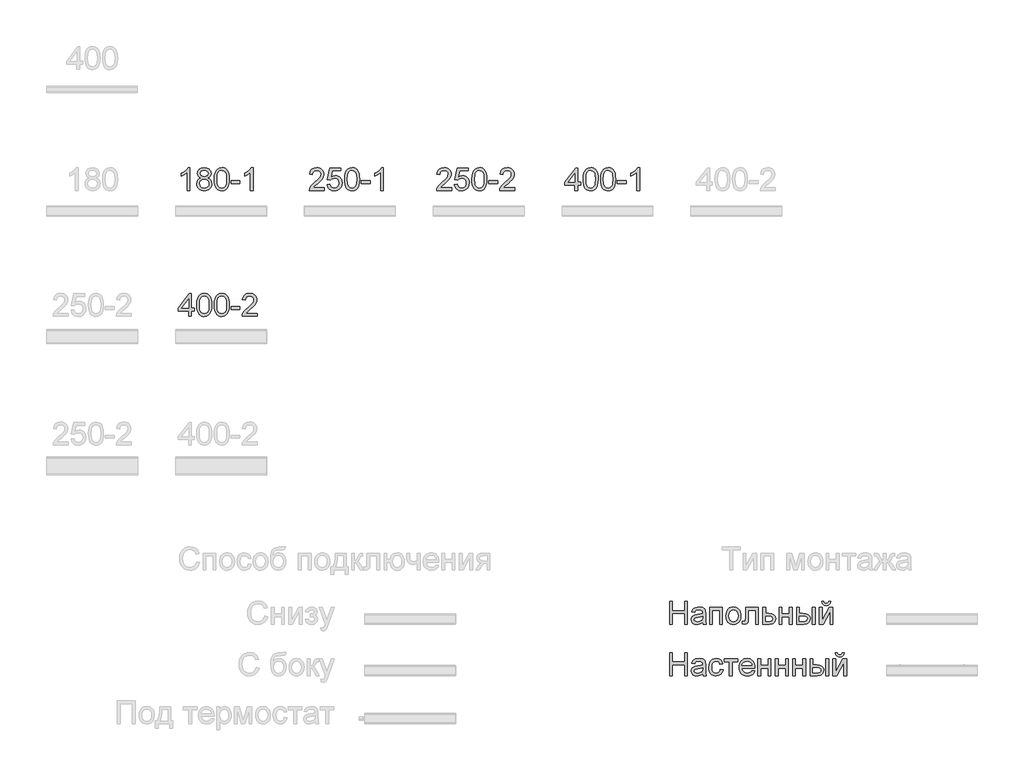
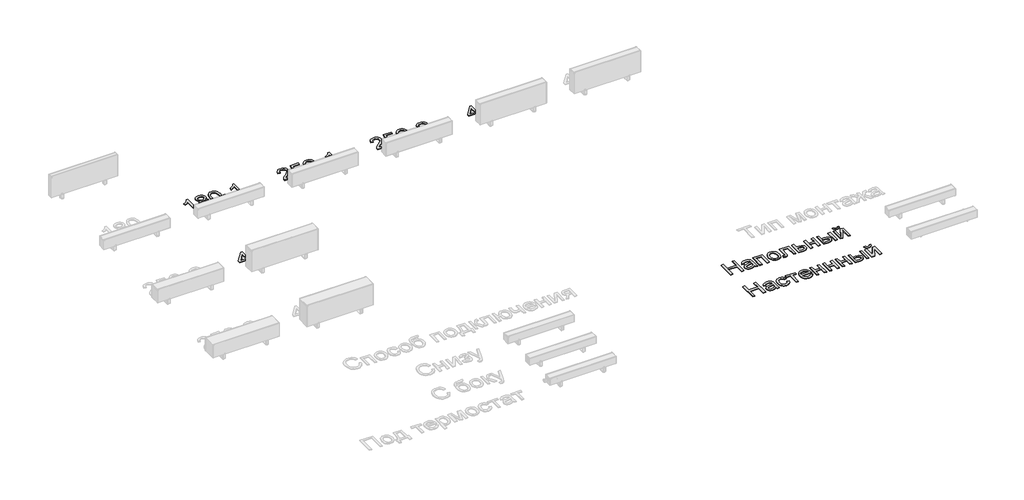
# One storey, part 6 of 7: 7 proxies.
"""IFC4 building model written with IfcOpenShell, lengths in millimetres."""

from ifc_helpers import new_model, si_unit, origin, origin_with_axes, place, context, project, spatial, polyline, outline, extrude, element, save

model = new_model("IFC4")

# Units and contexts
model_context = context("Model", 3, world=origin())
ifc_project = project(units=[si_unit("LENGTHUNIT", "METRE", prefix="MILLI")], contexts=[model_context])

# Site, building, storey
site = spatial("IfcSite", under=ifc_project)
building = spatial("IfcBuilding", under=site)
storey = spatial("IfcBuildingStorey", under=building, Name="Уровень 1", Elevation=0.0)

# Proxies
placement = place(None, origin())
element("IfcBuildingElementProxy", 1, Name="Текст модели 1", ObjectType="Текст модели 1", at=placement, inside=storey, context=model_context, shape_type="SweptSolid", body=[
    extrude(outline(polyline([(8112.3086397, -1140.7706341), (8074.6375233, -1140.7706341), (8074.6375233, -905.9147684), (8038.9529698, -931.3354142), (7999.2952907, -950.3549134), (7999.2952907, -914.7439363), (8028.8822002, -898.649099), (8054.5143782, -879.5008411), (8074.7202968, -859.1385727), (8088.028428, -839.4017036), (8112.3086397, -839.4017036), (8112.3086397, -1140.7706341)])), origin_with_axes(), (0.0, 0.0, 1.0), 10.0),
    extrude(outline(polyline([(8256.6655346, -974.7822779), (8236.4964042, -964.849464), (8222.3421444, -951.384983), (8213.9820261, -934.6647463), (8211.19532, -914.9646655), (8212.7128332, -899.6009936), (8217.2653729, -885.5157117), (8224.852939, -872.7088198), (8235.4755316, -861.1803178), (8248.6227144, -851.6521741), (8263.7840512, -844.8463572), (8300.1491864, -839.4017036), (8336.7350508, -844.9751159), (8352.0619344, -851.9418812), (8365.4114523, -861.6953525), (8376.227183, -873.4491823), (8383.9527049, -886.4170226), (8388.588018, -900.5988735), (8390.1331224, -915.994735), (8387.3832045, -935.0602194), (8379.1334508, -951.4953476), (8365.2918907, -964.8770551), (8345.7665538, -974.7822779), (8368.9523165, -986.7292457), (8385.8289031, -1004.3232021), (8396.1204019, -1026.7180185), (8399.5509015, -1053.0675664), (8397.8494473, -1071.8571393), (8392.7450846, -1089.0832138), (8384.2378134, -1104.7457897), (8372.3276338, -1118.8448672), (8357.6399452, -1130.4975294), (8340.8001469, -1138.8208595), (8321.8082389, -1143.8148576), (8300.6642212, -1145.4795236), (8279.5202035, -1143.8079598), (8260.5282955, -1138.7932684), (8243.6884972, -1130.4354493), (8229.0008085, -1118.7345026), (8217.0906289, -1104.5365568), (8208.5833578, -1088.6877406), (8203.4789951, -1071.188054), (8201.7775409, -1052.0374969), (8205.3459962, -1024.6670764), (8216.0513623, -1002.1526983), (8233.3418161, -985.2669147), (8256.6655346, -974.7822779)]), holes=[polyline([(8239.4486572, -1050.7131217), (8245.7394393, -1079.0768235), (8254.4490455, -1091.2445205), (8267.9963, -1100.3036146), (8284.219896, -1105.9322091), (8300.9585268, -1107.8084073), (8326.5999018, -1103.8628729), (8345.8401302, -1092.0262697), (8357.8698714, -1074.1012195), (8361.8797852, -1051.8903441), (8357.7411127, -1029.3023896), (8345.3250954, -1010.9818662), (8325.6434087, -998.8417604), (8299.707728, -994.7950584), (8274.4250379, -998.7865781), (8255.3779476, -1010.761137), (8243.4309798, -1028.7321725), (8239.4486572, -1050.7131217)]), polyline([(8248.8664363, -916.0683114), (8252.2049654, -932.5126366), (8262.2205527, -945.6460238), (8278.6188926, -954.2544625), (8301.1056796, -957.1239421), (8323.0682347, -954.2728566), (8339.2182543, -945.7196002), (8349.1510682, -933.0276714), (8352.4620061, -917.7605686), (8349.0407036, -901.9140517), (8338.7767959, -888.8082556), (8322.4060471, -880.0066789), (8300.6642212, -877.0728199), (8278.7844395, -879.9422995), (8262.4412819, -888.5507382), (8252.2601477, -901.1690906), (8248.8664363, -916.0683114)])]), origin_with_axes(), (0.0, 0.0, 1.0), 10.0),
    extrude(outline(polyline([(8432.5131283, -992.51419), (8435.2814403, -944.2756634), (8443.5863763, -905.8044038), (8457.3451629, -876.5117999), (8476.4750267, -855.8092406), (8501.1139233, -843.5035879), (8531.3998086, -839.4017036), (8554.6131625, -841.8297248), (8575.3984952, -849.1137883), (8592.7809195, -860.9687856), (8605.785548, -877.1096081), (8615.6079973, -897.3983002), (8623.4438838, -921.696906), (8628.5758376, -952.5530083), (8630.2864889, -992.51419), (8627.545768, -1040.4768052), (8619.3236054, -1078.8560943), (8605.6475922, -1108.1762893), (8586.5453196, -1128.961622), (8561.8512407, -1141.3500482), (8531.3998086, -1145.4795236), (8510.651264, -1143.6860989), (8492.2571643, -1138.3058247), (8476.2175093, -1129.3387011), (8462.5322991, -1116.784728), (8449.3989118, -1094.0910074), (8440.017921, -1065.8146776), (8434.3893264, -1031.9557384), (8432.5131283, -992.51419)]), holes=[polyline([(8470.1842446, -992.4406136), (8474.5988285, -1051.697206), (8480.1170584, -1071.9652047), (8487.8425803, -1085.993005), (8507.5610553, -1102.3545567), (8531.3998086, -1107.8084073), (8555.2385618, -1102.3361626), (8574.9570368, -1085.9194286), (8582.6825587, -1071.8686357), (8588.2007886, -1051.6052355), (8592.6153726, -992.4406136), (8588.3479414, -934.5175935), (8583.0136525, -914.3162734), (8575.545648, -899.95508), (8555.8639612, -882.793385), (8530.9583502, -877.0728199), (8507.3771143, -882.1128033), (8488.4311915, -897.2327533), (8480.4481522, -912.8677381), (8474.7459813, -933.9473764), (8470.1842446, -992.4406136)])]), origin_with_axes(), (0.0, 0.0, 1.0), 10.0),
    extrude(outline(polyline([(8653.8309366, -1051.3017329), (8653.8309366, -1013.6306166), (8771.553175, -1013.6306166), (8771.553175, -1051.3017329), (8653.8309366, -1051.3017329)])), origin_with_axes(), (0.0, 0.0, 1.0), 10.0),
    extrude(outline(polyline([(8945.7820879, -1140.7706341), (8908.1109716, -1140.7706341), (8908.1109716, -905.9147684), (8872.4264181, -931.3354142), (8832.768739, -950.3549134), (8832.768739, -914.7439363), (8862.3556485, -898.649099), (8887.9878265, -879.5008411), (8908.1937451, -859.1385727), (8921.5018762, -839.4017036), (8945.7820879, -839.4017036), (8945.7820879, -1140.7706341)])), origin_with_axes(), (0.0, 0.0, 1.0), 10.0),
])
element("IfcBuildingElementProxy", 2, Name="Текст модели 1", ObjectType="Текст модели 1", at=placement, inside=storey, context=model_context, shape_type="SweptSolid", body=[
    extrude(outline(polyline([(9884.1064246, -1103.0995178), (9884.1064246, -1140.7706341), (9686.333064, -1140.7706341), (9690.3797659, -1114.7981652), (9699.6687863, -1094.5002761), (9713.262026, -1074.8093924), (9732.9253187, -1054.1988036), (9760.4244978, -1031.1417995), (9801.0754583, -995.0341817), (9825.4660345, -968.3811312), (9837.6613227, -946.7496698), (9841.7264187, -925.7068197), (9837.8912489, -906.8436704), (9826.3857395, -891.1627004), (9808.6998126, -880.5952901), (9786.3233903, -877.0728199), (9762.8249278, -880.5125166), (9744.5687838, -890.8316066), (9732.7873629, -907.2207495), (9728.7130698, -928.8706049), (9691.0419535, -924.1617153), (9700.174624, -887.7230037), (9708.7209826, -873.1870664), (9719.9206901, -861.1067414), (9733.5162291, -851.6107874), (9749.2500822, -844.8279631), (9787.1327306, -839.4017036), (9807.3225544, -840.9100198), (9825.2912906, -845.4349684), (9841.0389393, -852.9765493), (9854.5655004, -863.5347625), (9865.4295155, -876.3278589), (9873.1895264, -890.5740892), (9877.8455329, -906.2734533), (9879.397535, -923.4259513), (9877.723672, -941.4429721), (9872.7020827, -959.1472931), (9863.7901414, -977.1551167), (9850.445222, -996.0826454), (9829.1724456, -1018.6797969), (9796.4769333, -1047.6964893), (9753.1404343, -1083.9328658), (9736.1442861, -1103.0995178), (9884.1064246, -1103.0995178)])), origin_with_axes(), (0.0, 0.0, 1.0), 10.0),
    extrude(outline(polyline([(9921.7775409, -1060.7195119), (9959.4486572, -1056.0106224), (9966.3648387, -1078.6261681), (9978.4313681, -1094.8221729), (9995.5930632, -1104.5618487), (10017.7947416, -1107.8084073), (10044.7972801, -1103.2926558), (10065.0307898, -1089.7454014), (10077.6675363, -1068.7301424), (10081.8797852, -1041.8103774), (10077.9342508, -1016.4633079), (10066.0976476, -997.0759268), (10046.2780051, -984.770274), (10018.3833528, -980.6683898), (10000.1088147, -982.3054647), (9985.3107615, -987.2166893), (9964.1575467, -1004.2128375), (9926.4864304, -999.5039479), (9959.4486572, -844.1105932), (10105.4242329, -844.1105932), (10105.4242329, -881.7817095), (9989.9092864, -881.7817095), (9973.796055, -964.7758876), (10000.7066229, -948.441927), (10028.9047779, -942.9972735), (10047.2505931, -944.6849321), (10064.1018878, -949.7479081), (10079.4586618, -958.1862014), (10093.3209152, -969.9998119), (10104.7965342, -984.4667714), (10112.9934049, -1000.8651113), (10117.9115273, -1019.1948317), (10119.5509015, -1039.4559326), (10113.6463955, -1077.1270489), (10106.2657629, -1093.920862), (10095.9328774, -1109.3535117), (10080.2794985, -1125.1586419), (10062.0141574, -1136.4480206), (10041.1368542, -1143.2216479), (10017.6475888, -1145.4795236), (9980.6478572, -1139.6761852), (9964.9691864, -1132.4220121), (9951.1713123, -1122.2661697), (9939.6910948, -1109.7144959), (9930.9653937, -1095.2728283), (9921.7775409, -1060.7195119)])), origin_with_axes(), (0.0, 0.0, 1.0), 10.0),
    extrude(outline(polyline([(10152.5131283, -992.51419), (10155.2814403, -944.2756634), (10163.5863763, -905.8044038), (10177.3451629, -876.5117999), (10196.4750267, -855.8092406), (10221.1139233, -843.5035879), (10251.3998086, -839.4017036), (10274.6131625, -841.8297248), (10295.3984952, -849.1137883), (10312.7809195, -860.9687856), (10325.785548, -877.1096081), (10335.6079973, -897.3983002), (10343.4438838, -921.696906), (10348.5758376, -952.5530083), (10350.2864889, -992.51419), (10347.545768, -1040.4768052), (10339.3236054, -1078.8560943), (10325.6475922, -1108.1762893), (10306.5453196, -1128.961622), (10281.8512407, -1141.3500482), (10251.3998086, -1145.4795236), (10230.651264, -1143.6860989), (10212.2571643, -1138.3058247), (10196.2175093, -1129.3387011), (10182.5322991, -1116.784728), (10169.3989118, -1094.0910074), (10160.017921, -1065.8146776), (10154.3893264, -1031.9557384), (10152.5131283, -992.51419)]), holes=[polyline([(10190.1842446, -992.4406136), (10194.5988285, -1051.697206), (10200.1170584, -1071.9652047), (10207.8425803, -1085.993005), (10227.5610553, -1102.3545567), (10251.3998086, -1107.8084073), (10275.2385618, -1102.3361626), (10294.9570368, -1085.9194286), (10302.6825587, -1071.8686357), (10308.2007886, -1051.6052355), (10312.6153726, -992.4406136), (10308.3479414, -934.5175935), (10303.0136525, -914.3162734), (10295.545648, -899.95508), (10275.8639612, -882.793385), (10250.9583502, -877.0728199), (10227.3771143, -882.1128033), (10208.4311915, -897.2327533), (10200.4481522, -912.8677381), (10194.7459813, -933.9473764), (10190.1842446, -992.4406136)])]), origin_with_axes(), (0.0, 0.0, 1.0), 10.0),
    extrude(outline(polyline([(10373.8309366, -1051.3017329), (10373.8309366, -1013.6306166), (10491.553175, -1013.6306166), (10491.553175, -1051.3017329), (10373.8309366, -1051.3017329)])), origin_with_axes(), (0.0, 0.0, 1.0), 10.0),
    extrude(outline(polyline([(10665.7820879, -1140.7706341), (10628.1109716, -1140.7706341), (10628.1109716, -905.9147684), (10592.4264181, -931.3354142), (10552.768739, -950.3549134), (10552.768739, -914.7439363), (10582.3556485, -898.649099), (10607.9878265, -879.5008411), (10628.1937451, -859.1385727), (10641.5018762, -839.4017036), (10665.7820879, -839.4017036), (10665.7820879, -1140.7706341)])), origin_with_axes(), (0.0, 0.0, 1.0), 10.0),
])
element("IfcBuildingElementProxy", 3, Name="Текст модели 1", ObjectType="Текст модели 1", at=placement, inside=storey, context=model_context, shape_type="SweptSolid", body=[
    extrude(outline(polyline([(11564.1064246, -1103.0995178), (11564.1064246, -1140.7706341), (11366.333064, -1140.7706341), (11370.3797659, -1114.7981652), (11379.6687863, -1094.5002761), (11393.262026, -1074.8093924), (11412.9253187, -1054.1988036), (11440.4244978, -1031.1417995), (11481.0754583, -995.0341817), (11505.4660345, -968.3811312), (11517.6613227, -946.7496698), (11521.7264187, -925.7068197), (11517.8912489, -906.8436704), (11506.3857395, -891.1627004), (11488.6998126, -880.5952901), (11466.3233903, -877.0728199), (11442.8249278, -880.5125166), (11424.5687838, -890.8316066), (11412.7873629, -907.2207495), (11408.7130698, -928.8706049), (11371.0419535, -924.1617153), (11380.174624, -887.7230037), (11388.7209826, -873.1870664), (11399.9206901, -861.1067414), (11413.5162291, -851.6107874), (11429.2500822, -844.8279631), (11467.1327306, -839.4017036), (11487.3225544, -840.9100198), (11505.2912906, -845.4349684), (11521.0389393, -852.9765493), (11534.5655004, -863.5347625), (11545.4295155, -876.3278589), (11553.1895264, -890.5740892), (11557.8455329, -906.2734533), (11559.397535, -923.4259513), (11557.723672, -941.4429721), (11552.7020827, -959.1472931), (11543.7901414, -977.1551167), (11530.445222, -996.0826454), (11509.1724456, -1018.6797969), (11476.4769333, -1047.6964893), (11433.1404343, -1083.9328658), (11416.1442861, -1103.0995178), (11564.1064246, -1103.0995178)])), origin_with_axes(), (0.0, 0.0, 1.0), 10.0),
    extrude(outline(polyline([(11601.7775409, -1060.7195119), (11639.4486572, -1056.0106224), (11646.3648387, -1078.6261681), (11658.4313681, -1094.8221729), (11675.5930632, -1104.5618487), (11697.7947416, -1107.8084073), (11724.7972801, -1103.2926558), (11745.0307898, -1089.7454014), (11757.6675363, -1068.7301424), (11761.8797852, -1041.8103774), (11757.9342508, -1016.4633079), (11746.0976476, -997.0759268), (11726.2780051, -984.770274), (11698.3833528, -980.6683898), (11680.1088147, -982.3054647), (11665.3107615, -987.2166893), (11644.1575467, -1004.2128375), (11606.4864304, -999.5039479), (11639.4486572, -844.1105932), (11785.4242329, -844.1105932), (11785.4242329, -881.7817095), (11669.9092864, -881.7817095), (11653.796055, -964.7758876), (11680.7066229, -948.441927), (11708.9047779, -942.9972735), (11727.2505931, -944.6849321), (11744.1018878, -949.7479081), (11759.4586618, -958.1862014), (11773.3209152, -969.9998119), (11784.7965342, -984.4667714), (11792.9934049, -1000.8651113), (11797.9115273, -1019.1948317), (11799.5509015, -1039.4559326), (11793.6463955, -1077.1270489), (11786.2657629, -1093.920862), (11775.9328774, -1109.3535117), (11760.2794985, -1125.1586419), (11742.0141574, -1136.4480206), (11721.1368542, -1143.2216479), (11697.6475888, -1145.4795236), (11660.6478572, -1139.6761852), (11644.9691864, -1132.4220121), (11631.1713123, -1122.2661697), (11619.6910948, -1109.7144959), (11610.9653937, -1095.2728283), (11601.7775409, -1060.7195119)])), origin_with_axes(), (0.0, 0.0, 1.0), 10.0),
    extrude(outline(polyline([(11832.5131283, -992.51419), (11835.2814403, -944.2756634), (11843.5863763, -905.8044038), (11857.3451629, -876.5117999), (11876.4750267, -855.8092406), (11901.1139233, -843.5035879), (11931.3998086, -839.4017036), (11954.6131625, -841.8297248), (11975.3984952, -849.1137883), (11992.7809195, -860.9687856), (12005.785548, -877.1096081), (12015.6079973, -897.3983002), (12023.4438838, -921.696906), (12028.5758376, -952.5530083), (12030.2864889, -992.51419), (12027.545768, -1040.4768052), (12019.3236054, -1078.8560943), (12005.6475922, -1108.1762893), (11986.5453196, -1128.961622), (11961.8512407, -1141.3500482), (11931.3998086, -1145.4795236), (11910.651264, -1143.6860989), (11892.2571643, -1138.3058247), (11876.2175093, -1129.3387011), (11862.5322991, -1116.784728), (11849.3989118, -1094.0910074), (11840.017921, -1065.8146776), (11834.3893264, -1031.9557384), (11832.5131283, -992.51419)]), holes=[polyline([(11870.1842446, -992.4406136), (11874.5988285, -1051.697206), (11880.1170584, -1071.9652047), (11887.8425803, -1085.993005), (11907.5610553, -1102.3545567), (11931.3998086, -1107.8084073), (11955.2385618, -1102.3361626), (11974.9570368, -1085.9194286), (11982.6825587, -1071.8686357), (11988.2007886, -1051.6052355), (11992.6153726, -992.4406136), (11988.3479414, -934.5175935), (11983.0136525, -914.3162734), (11975.545648, -899.95508), (11955.8639612, -882.793385), (11930.9583502, -877.0728199), (11907.3771143, -882.1128033), (11888.4311915, -897.2327533), (11880.4481522, -912.8677381), (11874.7459813, -933.9473764), (11870.1842446, -992.4406136)])]), origin_with_axes(), (0.0, 0.0, 1.0), 10.0),
    extrude(outline(polyline([(12053.8309366, -1051.3017329), (12053.8309366, -1013.6306166), (12171.553175, -1013.6306166), (12171.553175, -1051.3017329), (12053.8309366, -1051.3017329)])), origin_with_axes(), (0.0, 0.0, 1.0), 10.0),
    extrude(outline(polyline([(12397.5798728, -1103.0995178), (12397.5798728, -1140.7706341), (12199.8065122, -1140.7706341), (12203.8532142, -1114.7981652), (12213.1422346, -1094.5002761), (12226.7354743, -1074.8093924), (12246.3987669, -1054.1988036), (12273.8979461, -1031.1417995), (12314.5489065, -995.0341817), (12338.9394828, -968.3811312), (12351.134771, -946.7496698), (12355.199867, -925.7068197), (12351.3646972, -906.8436704), (12339.8591878, -891.1627004), (12322.1732609, -880.5952901), (12299.7968385, -877.0728199), (12276.2983761, -880.5125166), (12258.0422321, -890.8316066), (12246.2608112, -907.2207495), (12242.1865181, -928.8706049), (12204.5154018, -924.1617153), (12213.6480723, -887.7230037), (12222.1944309, -873.1870664), (12233.3941384, -861.1067414), (12246.9896774, -851.6107874), (12262.7235305, -844.8279631), (12300.6061789, -839.4017036), (12320.7960027, -840.9100198), (12338.7647389, -845.4349684), (12354.5123875, -852.9765493), (12368.0389486, -863.5347625), (12378.9029638, -876.3278589), (12386.6629746, -890.5740892), (12391.3189811, -906.2734533), (12392.8709833, -923.4259513), (12391.1971202, -941.4429721), (12386.175531, -959.1472931), (12377.2635897, -977.1551167), (12363.9186703, -996.0826454), (12342.6458939, -1018.6797969), (12309.9503816, -1047.6964893), (12266.6138826, -1083.9328658), (12249.6177344, -1103.0995178), (12397.5798728, -1103.0995178)])), origin_with_axes(), (0.0, 0.0, 1.0), 10.0),
])
element("IfcBuildingElementProxy", 4, Name="Текст модели 1", ObjectType="Текст модели 1", at=placement, inside=storey, context=model_context, shape_type="SweptSolid", body=[
    extrude(outline(polyline([(13193.4730815, -1140.7706341), (13193.4730815, -1070.137291), (13056.9152849, -1070.137291), (13056.9152849, -1032.4661747), (13202.8908606, -844.1105932), (13231.1441978, -844.1105932), (13231.1441978, -1032.4661747), (13268.8153141, -1032.4661747), (13268.8153141, -1070.137291), (13231.1441978, -1070.137291), (13231.1441978, -1140.7706341), (13193.4730815, -1140.7706341)]), holes=[polyline([(13193.4730815, -1032.4661747), (13193.4730815, -916.0683114), (13103.2684163, -1032.4661747), (13193.4730815, -1032.4661747)])]), origin_with_axes(), (0.0, 0.0, 1.0), 10.0),
    extrude(outline(polyline([(13301.7775409, -992.51419), (13304.5458529, -944.2756634), (13312.8507889, -905.8044038), (13326.6095756, -876.5117999), (13345.7394393, -855.8092406), (13370.3783359, -843.5035879), (13400.6642212, -839.4017036), (13423.8775751, -841.8297248), (13444.6629078, -849.1137883), (13462.0453321, -860.9687856), (13475.0499606, -877.1096081), (13484.8724099, -897.3983002), (13492.7082964, -921.696906), (13497.8402502, -952.5530083), (13499.5509015, -992.51419), (13496.8101806, -1040.4768052), (13488.588018, -1078.8560943), (13474.9120049, -1108.1762893), (13455.8097323, -1128.961622), (13431.1156533, -1141.3500482), (13400.6642212, -1145.4795236), (13379.9156767, -1143.6860989), (13361.5215769, -1138.3058247), (13345.4819219, -1129.3387011), (13331.7967117, -1116.784728), (13318.6633245, -1094.0910074), (13309.2823336, -1065.8146776), (13303.6537391, -1031.9557384), (13301.7775409, -992.51419)]), holes=[polyline([(13339.4486572, -992.4406136), (13343.8632411, -1051.697206), (13349.3814711, -1071.9652047), (13357.106993, -1085.993005), (13376.8254679, -1102.3545567), (13400.6642212, -1107.8084073), (13424.5029745, -1102.3361626), (13444.2214494, -1085.9194286), (13451.9469713, -1071.8686357), (13457.4652012, -1051.6052355), (13461.8797852, -992.4406136), (13457.612354, -934.5175935), (13452.2780651, -914.3162734), (13444.8100606, -899.95508), (13425.1283739, -882.793385), (13400.2227628, -877.0728199), (13376.6415269, -882.1128033), (13357.6956041, -897.2327533), (13349.7125649, -912.8677381), (13344.0103939, -933.9473764), (13339.4486572, -992.4406136)])]), origin_with_axes(), (0.0, 0.0, 1.0), 10.0),
    extrude(outline(polyline([(13532.5131283, -992.51419), (13535.2814403, -944.2756634), (13543.5863763, -905.8044038), (13557.3451629, -876.5117999), (13576.4750267, -855.8092406), (13601.1139233, -843.5035879), (13631.3998086, -839.4017036), (13654.6131625, -841.8297248), (13675.3984952, -849.1137883), (13692.7809195, -860.9687856), (13705.785548, -877.1096081), (13715.6079973, -897.3983002), (13723.4438838, -921.696906), (13728.5758376, -952.5530083), (13730.2864889, -992.51419), (13727.545768, -1040.4768052), (13719.3236054, -1078.8560943), (13705.6475922, -1108.1762893), (13686.5453196, -1128.961622), (13661.8512407, -1141.3500482), (13631.3998086, -1145.4795236), (13610.651264, -1143.6860989), (13592.2571643, -1138.3058247), (13576.2175093, -1129.3387011), (13562.5322991, -1116.784728), (13549.3989118, -1094.0910074), (13540.017921, -1065.8146776), (13534.3893264, -1031.9557384), (13532.5131283, -992.51419)]), holes=[polyline([(13570.1842446, -992.4406136), (13574.5988285, -1051.697206), (13580.1170584, -1071.9652047), (13587.8425803, -1085.993005), (13607.5610553, -1102.3545567), (13631.3998086, -1107.8084073), (13655.2385618, -1102.3361626), (13674.9570368, -1085.9194286), (13682.6825587, -1071.8686357), (13688.2007886, -1051.6052355), (13692.6153726, -992.4406136), (13688.3479414, -934.5175935), (13683.0136525, -914.3162734), (13675.545648, -899.95508), (13655.8639612, -882.793385), (13630.9583502, -877.0728199), (13607.3771143, -882.1128033), (13588.4311915, -897.2327533), (13580.4481522, -912.8677381), (13574.7459813, -933.9473764), (13570.1842446, -992.4406136)])]), origin_with_axes(), (0.0, 0.0, 1.0), 10.0),
    extrude(outline(polyline([(13753.8309366, -1051.3017329), (13753.8309366, -1013.6306166), (13871.553175, -1013.6306166), (13871.553175, -1051.3017329), (13753.8309366, -1051.3017329)])), origin_with_axes(), (0.0, 0.0, 1.0), 10.0),
    extrude(outline(polyline([(14045.7820879, -1140.7706341), (14008.1109716, -1140.7706341), (14008.1109716, -905.9147684), (13972.4264181, -931.3354142), (13932.768739, -950.3549134), (13932.768739, -914.7439363), (13962.3556485, -898.649099), (13987.9878265, -879.5008411), (14008.1937451, -859.1385727), (14021.5018762, -839.4017036), (14045.7820879, -839.4017036), (14045.7820879, -1140.7706341)])), origin_with_axes(), (0.0, 0.0, 1.0), 10.0),
])
element("IfcBuildingElementProxy", 5, Name="Текст модели 1", ObjectType="Текст модели 1", at=placement, inside=storey, context=model_context, shape_type="SweptSolid", body=[
    extrude(outline(polyline([(8093.4730815, -2800.7706341), (8093.4730815, -2730.137291), (7956.9152849, -2730.137291), (7956.9152849, -2692.4661747), (8102.8908606, -2504.1105932), (8131.1441978, -2504.1105932), (8131.1441978, -2692.4661747), (8168.8153141, -2692.4661747), (8168.8153141, -2730.137291), (8131.1441978, -2730.137291), (8131.1441978, -2800.7706341), (8093.4730815, -2800.7706341)]), holes=[polyline([(8093.4730815, -2692.4661747), (8093.4730815, -2576.0683114), (8003.2684163, -2692.4661747), (8093.4730815, -2692.4661747)])]), origin_with_axes(), (0.0, 0.0, 1.0), 10.0),
    extrude(outline(polyline([(8201.7775409, -2652.51419), (8204.5458529, -2604.2756634), (8212.8507889, -2565.8044038), (8226.6095756, -2536.5117999), (8245.7394393, -2515.8092406), (8270.3783359, -2503.5035879), (8300.6642212, -2499.4017036), (8323.8775751, -2501.8297248), (8344.6629078, -2509.1137883), (8362.0453321, -2520.9687856), (8375.0499606, -2537.1096081), (8384.8724099, -2557.3983002), (8392.7082964, -2581.696906), (8397.8402502, -2612.5530083), (8399.5509015, -2652.51419), (8396.8101806, -2700.4768052), (8388.588018, -2738.8560943), (8374.9120049, -2768.1762893), (8355.8097323, -2788.961622), (8331.1156533, -2801.3500482), (8300.6642212, -2805.4795236), (8279.9156767, -2803.6860989), (8261.5215769, -2798.3058247), (8245.4819219, -2789.3387011), (8231.7967117, -2776.784728), (8218.6633245, -2754.0910074), (8209.2823336, -2725.8146776), (8203.6537391, -2691.9557384), (8201.7775409, -2652.51419)]), holes=[polyline([(8239.4486572, -2652.4406136), (8243.8632411, -2711.697206), (8249.3814711, -2731.9652047), (8257.106993, -2745.993005), (8276.8254679, -2762.3545567), (8300.6642212, -2767.8084073), (8324.5029745, -2762.3361626), (8344.2214494, -2745.9194286), (8351.9469713, -2731.8686357), (8357.4652012, -2711.6052355), (8361.8797852, -2652.4406136), (8357.612354, -2594.5175935), (8352.2780651, -2574.3162734), (8344.8100606, -2559.95508), (8325.1283739, -2542.793385), (8300.2227628, -2537.0728199), (8276.6415269, -2542.1128033), (8257.6956041, -2557.2327533), (8249.7125649, -2572.8677381), (8244.0103939, -2593.9473764), (8239.4486572, -2652.4406136)])]), origin_with_axes(), (0.0, 0.0, 1.0), 10.0),
    extrude(outline(polyline([(8432.5131283, -2652.51419), (8435.2814403, -2604.2756634), (8443.5863763, -2565.8044038), (8457.3451629, -2536.5117999), (8476.4750267, -2515.8092406), (8501.1139233, -2503.5035879), (8531.3998086, -2499.4017036), (8554.6131625, -2501.8297248), (8575.3984952, -2509.1137883), (8592.7809195, -2520.9687856), (8605.785548, -2537.1096081), (8615.6079973, -2557.3983002), (8623.4438838, -2581.696906), (8628.5758376, -2612.5530083), (8630.2864889, -2652.51419), (8627.545768, -2700.4768052), (8619.3236054, -2738.8560943), (8605.6475922, -2768.1762893), (8586.5453196, -2788.961622), (8561.8512407, -2801.3500482), (8531.3998086, -2805.4795236), (8510.651264, -2803.6860989), (8492.2571643, -2798.3058247), (8476.2175093, -2789.3387011), (8462.5322991, -2776.784728), (8449.3989118, -2754.0910074), (8440.017921, -2725.8146776), (8434.3893264, -2691.9557384), (8432.5131283, -2652.51419)]), holes=[polyline([(8470.1842446, -2652.4406136), (8474.5988285, -2711.697206), (8480.1170584, -2731.9652047), (8487.8425803, -2745.993005), (8507.5610553, -2762.3545567), (8531.3998086, -2767.8084073), (8555.2385618, -2762.3361626), (8574.9570368, -2745.9194286), (8582.6825587, -2731.8686357), (8588.2007886, -2711.6052355), (8592.6153726, -2652.4406136), (8588.3479414, -2594.5175935), (8583.0136525, -2574.3162734), (8575.545648, -2559.95508), (8555.8639612, -2542.793385), (8530.9583502, -2537.0728199), (8507.3771143, -2542.1128033), (8488.4311915, -2557.2327533), (8480.4481522, -2572.8677381), (8474.7459813, -2593.9473764), (8470.1842446, -2652.4406136)])]), origin_with_axes(), (0.0, 0.0, 1.0), 10.0),
    extrude(outline(polyline([(8653.8309366, -2711.3017329), (8653.8309366, -2673.6306166), (8771.553175, -2673.6306166), (8771.553175, -2711.3017329), (8653.8309366, -2711.3017329)])), origin_with_axes(), (0.0, 0.0, 1.0), 10.0),
    extrude(outline(polyline([(8997.5798728, -2763.0995178), (8997.5798728, -2800.7706341), (8799.8065122, -2800.7706341), (8803.8532142, -2774.7981652), (8813.1422346, -2754.5002761), (8826.7354743, -2734.8093924), (8846.3987669, -2714.1988036), (8873.8979461, -2691.1417995), (8914.5489065, -2655.0341817), (8938.9394828, -2628.3811312), (8951.134771, -2606.7496698), (8955.199867, -2585.7068197), (8951.3646972, -2566.8436704), (8939.8591878, -2551.1627004), (8922.1732609, -2540.5952901), (8899.7968385, -2537.0728199), (8876.2983761, -2540.5125166), (8858.0422321, -2550.8316066), (8846.2608112, -2567.2207495), (8842.1865181, -2588.8706049), (8804.5154018, -2584.1617153), (8813.6480723, -2547.7230037), (8822.1944309, -2533.1870664), (8833.3941384, -2521.1067414), (8846.9896774, -2511.6107874), (8862.7235305, -2504.8279631), (8900.6061789, -2499.4017036), (8920.7960027, -2500.9100198), (8938.7647389, -2505.4349684), (8954.5123875, -2512.9765493), (8968.0389486, -2523.5347625), (8978.9029638, -2536.3278589), (8986.6629746, -2550.5740892), (8991.3189811, -2566.2734533), (8992.8709833, -2583.4259513), (8991.1971202, -2601.4429721), (8986.175531, -2619.1472931), (8977.2635897, -2637.1551167), (8963.9186703, -2656.0826454), (8942.6458939, -2678.6797969), (8909.9503816, -2707.6964893), (8866.6138826, -2743.9328658), (8849.6177344, -2763.0995178), (8997.5798728, -2763.0995178)])), origin_with_axes(), (0.0, 0.0, 1.0), 10.0),
])
element("IfcBuildingElementProxy", 6, Name="Текст модели 1", ObjectType="Текст модели 1", at=placement, inside=storey, context=model_context, shape_type="SweptSolid", body=[
    extrude(outline(polyline([(14442.3154482, -6868.8180768), (14442.3154482, -6567.4491463), (14479.9865645, -6567.4491463), (14479.9865645, -6689.8802743), (14640.0888088, -6689.8802743), (14640.0888088, -6567.4491463), (14677.7599251, -6567.4491463), (14677.7599251, -6868.8180768), (14640.0888088, -6868.8180768), (14640.0888088, -6727.5513906), (14479.9865645, -6727.5513906), (14479.9865645, -6868.8180768), (14442.3154482, -6868.8180768)])), origin_with_axes(), (0.0, 0.0, 1.0), 10.0),
    extrude(outline(polyline([(14880.2421752, -6840.5647396), (14862.2435486, -6855.9973893), (14843.7114931, -6866.09575), (14824.2229444, -6871.6691623), (14803.3548382, -6873.5269663), (14771.8733365, -6869.0572001), (14748.6507856, -6855.6479014), (14734.3309789, -6835.2856329), (14729.55771, -6809.9569576), (14731.3603318, -6794.3403669), (14736.7681971, -6780.158516), (14745.1099214, -6768.0184101), (14755.7141199, -6758.5270546), (14782.0912589, -6746.1662196), (14814.6856037, -6740.5008369), (14853.2028486, -6734.5411486), (14880.021446, -6727.5513906), (14880.2421752, -6719.1636812), (14877.6486072, -6702.351474), (14869.867903, -6691.3518023), (14852.4670846, -6683.184822), (14828.2236611, -6680.4624953), (14805.7828594, -6682.2743141), (14790.1110864, -6687.7097706), (14779.4241145, -6697.7621461), (14771.9377159, -6713.424722), (14734.2665995, -6708.7158325), (14740.805702, -6688.1144408), (14750.5637719, -6671.927633), (14764.4513173, -6659.5484038), (14783.3788459, -6650.3697481), (14806.5278205, -6644.6859712), (14833.0797035, -6642.791379), (14858.5463346, -6644.465242), (14878.7338591, -6649.4868313), (14893.9549766, -6657.0376092), (14904.5223869, -6666.2990385), (14911.5305389, -6677.7493656), (14916.0738816, -6691.8668371), (14917.9132915, -6724.8290639), (14917.9132915, -6771.6972301), (14919.8262779, -6837.143437), (14927.3310706, -6868.8180768), (14889.6599543, -6868.8180768), (14880.2421752, -6840.5647396)]), holes=[polyline([(14880.2421752, -6765.222507), (14819.4680696, -6776.7740016), (14787.0576659, -6782.8808427), (14772.3791742, -6792.8136566), (14767.2288263, -6807.3082072), (14770.0339265, -6818.510214), (14778.4492272, -6827.6888697), (14792.2907872, -6833.814105), (14811.3746657, -6835.85585), (14831.6081755, -6833.6025728), (14849.4872404, -6826.8427411), (14863.981791, -6816.8823361), (14874.0617577, -6805.0273388), (14878.531524, -6792.8136566), (14880.021446, -6775.8910848), (14880.2421752, -6765.222507)])]), origin_with_axes(), (0.0, 0.0, 1.0), 10.0),
    extrude(outline(polyline([(14969.7110765, -6647.5002685), (15139.2310998, -6647.5002685), (15139.2310998, -6868.8180768), (15101.5599835, -6868.8180768), (15101.5599835, -6685.1713848), (15007.3821928, -6685.1713848), (15007.3821928, -6868.8180768), (14969.7110765, -6868.8180768), (14969.7110765, -6647.5002685)])), origin_with_axes(), (0.0, 0.0, 1.0), 10.0),
    extrude(outline(polyline([(15186.3199952, -6758.1591726), (15188.3571418, -6729.4965667), (15194.4685814, -6704.7978892), (15204.6543142, -6684.0631403), (15218.91434, -6667.2923198), (15233.2709349, -6656.5731582), (15249.1174518, -6648.9166142), (15266.4538908, -6644.3226878), (15285.2802519, -6642.791379), (15306.0632854, -6644.6560808), (15324.8551576, -6650.2501864), (15341.6558684, -6659.5736957), (15356.465418, -6672.6266088), (15368.5526408, -6688.9674671), (15377.1863714, -6708.1548125), (15382.3666097, -6730.1886447), (15384.0933558, -6755.0689639), (15381.0399353, -6793.1263563), (15371.8796736, -6822.0970634), (15356.8792852, -6843.7929041), (15336.3054847, -6860.0256971), (15311.8689231, -6870.151649), (15285.2802519, -6873.5269663), (15264.1937158, -6871.6691623), (15245.2270997, -6866.09575), (15228.3804036, -6856.8067297), (15213.6536275, -6843.8021011), (15201.6951634, -6827.3025936), (15193.1534033, -6807.5289364), (15188.0283472, -6784.4811294), (15186.3199952, -6758.1591726)]), holes=[polyline([(15223.9911115, -6758.0855962), (15228.3505132, -6792.1790602), (15241.4287181, -6816.4684689), (15261.1104048, -6831.0090047), (15285.2802519, -6835.85585), (15309.3397344, -6830.9814136), (15328.984633, -6816.3581043), (15342.0628379, -6791.7467988), (15346.4222395, -6756.9083739), (15342.0352467, -6723.8081913), (15328.8742684, -6699.8498764), (15309.2017787, -6685.3093406), (15285.2802519, -6680.4624953), (15261.1104048, -6685.2909465), (15241.4287181, -6699.7763), (15228.3505132, -6724.0105264), (15223.9911115, -6758.0855962)])]), origin_with_axes(), (0.0, 0.0, 1.0), 10.0),
    extrude(outline(polyline([(15445.3089198, -6647.5002685), (15614.8289432, -6647.5002685), (15614.8289432, -6868.5973476), (15577.1578269, -6868.5973476), (15577.1578269, -6685.1713848), (15482.9800361, -6685.1713848), (15482.9800361, -6790.7535174), (15480.4416504, -6839.4610936), (15475.6867756, -6850.4883564), (15466.4989227, -6860.0256971), (15452.5561951, -6866.6199819), (15433.536696, -6868.8180768), (15402.928914, -6866.9050904), (15402.928914, -6831.1469605), (15419.7779094, -6831.1469605), (15436.8108457, -6828.8293039), (15443.6166626, -6821.471664), (15445.3089198, -6788.6198018), (15445.3089198, -6647.5002685)])), origin_with_axes(), (0.0, 0.0, 1.0), 10.0),
    extrude(outline(polyline([(15671.3356177, -6647.5002685), (15709.006734, -6647.5002685), (15709.006734, -6727.5513906), (15752.4168094, -6727.5513906), (15790.0511375, -6732.2694772), (15805.1986787, -6738.1670855), (15817.8998045, -6746.423737), (15827.942983, -6756.7543233), (15835.1166819, -6768.8737358), (15840.855641, -6798.4790393), (15835.9720076, -6825.4355925), (15821.3211071, -6848.1798969), (15810.0892099, -6857.2091006), (15795.9280524, -6863.6585318), (15758.8179561, -6868.8180768), (15671.3356177, -6868.8180768), (15671.3356177, -6647.5002685)]), holes=[polyline([(15709.006734, -6831.1469605), (15744.1762527, -6831.1469605), (15771.4638997, -6829.1695948), (15789.6096791, -6823.2374976), (15799.7908133, -6813.1115457), (15803.1845247, -6798.5526157), (15800.6737301, -6786.246963), (15793.1413463, -6775.37605), (15777.0005237, -6767.7608927), (15748.664413, -6765.222507), (15709.006734, -6765.222507), (15709.006734, -6831.1469605)])]), origin_with_axes(), (0.0, 0.0, 1.0), 10.0),
    extrude(outline(polyline([(15887.9445364, -6647.5002685), (15925.6156527, -6647.5002685), (15925.6156527, -6732.2602802), (16024.502333, -6732.2602802), (16024.502333, -6647.5002685), (16062.1734493, -6647.5002685), (16062.1734493, -6868.8180768), (16024.502333, -6868.8180768), (16024.502333, -6769.9313965), (15925.6156527, -6769.9313965), (15925.6156527, -6868.8180768), (15887.9445364, -6868.8180768), (15887.9445364, -6647.5002685)])), origin_with_axes(), (0.0, 0.0, 1.0), 10.0),
    extrude(outline(polyline([(16325.8712635, -6647.5002685), (16363.5423798, -6647.5002685), (16363.5423798, -6868.8180768), (16325.8712635, -6868.8180768), (16325.8712635, -6647.5002685)])), origin_with_axes(), (0.0, 0.0, 1.0), 10.0),
    extrude(outline(polyline([(16118.6801238, -6647.5002685), (16156.3512401, -6647.5002685), (16156.3512401, -6727.5513906), (16202.9251007, -6727.5513906), (16243.180588, -6732.2694772), (16259.3972862, -6738.1670855), (16273.0066208, -6746.423737), (16283.7740669, -6756.7543233), (16291.4650999, -6768.8737358), (16296.0797197, -6782.7819744), (16297.6179263, -6798.4790393), (16292.4583813, -6825.4355925), (16276.9797463, -6848.1798969), (16265.1178512, -6857.2091006), (16250.1703459, -6863.6585318), (16211.0185046, -6868.8180768), (16118.6801238, -6868.8180768), (16118.6801238, -6647.5002685)]), holes=[polyline([(16156.3512401, -6831.1469605), (16195.052426, -6831.1469605), (16225.0532027, -6829.1695948), (16245.0108009, -6823.2374976), (16256.2128077, -6813.1115457), (16259.9468099, -6798.5526157), (16257.1784979, -6786.246963), (16248.8735619, -6775.37605), (16231.1140586, -6767.7608927), (16199.9820447, -6765.222507), (16156.3512401, -6765.222507), (16156.3512401, -6831.1469605)])]), origin_with_axes(), (0.0, 0.0, 1.0), 10.0),
    extrude(outline(polyline([(16420.0490542, -6647.5002685), (16457.7201706, -6647.5002685), (16457.7201706, -6816.2845279), (16550.2792805, -6647.5002685), (16598.9868567, -6647.5002685), (16598.9868567, -6868.8180768), (16561.3157404, -6868.8180768), (16561.3157404, -6701.063887), (16469.3452416, -6868.8180768), (16420.0490542, -6868.8180768), (16420.0490542, -6647.5002685)])), origin_with_axes(), (0.0, 0.0, 1.0), 10.0),
    extrude(outline(polyline([(16542.4801822, -6567.4491463), (16570.7335195, -6567.4491463), (16564.6542695, -6591.5730082), (16552.4497843, -6609.3509056), (16534.6718869, -6620.304592), (16511.8724002, -6623.9558208), (16487.1323361, -6620.3321832), (16467.94729, -6609.4612702), (16454.8322969, -6591.7109639), (16448.3023915, -6567.4491463), (16476.5557287, -6567.4491463), (16480.5288543, -6579.8559666), (16487.1507302, -6588.6759375), (16496.4581446, -6593.945847), (16508.4878859, -6595.7024836), (16522.0627315, -6594.0010293), (16531.8851808, -6588.8966667), (16538.5070567, -6580.1318781), (16542.4801822, -6567.4491463)])), origin_with_axes(), (0.0, 0.0, 1.0), 10.0),
])
element("IfcBuildingElementProxy", 7, Name="Текст модели 1", ObjectType="Текст модели 1", at=placement, inside=storey, context=model_context, shape_type="SweptSolid", body=[
    extrude(outline(polyline([(14442.3154482, -7548.2691255), (14442.3154482, -7246.900195), (14479.9865645, -7246.900195), (14479.9865645, -7369.331323), (14640.0888088, -7369.331323), (14640.0888088, -7246.900195), (14677.7599251, -7246.900195), (14677.7599251, -7548.2691255), (14640.0888088, -7548.2691255), (14640.0888088, -7407.0024393), (14479.9865645, -7407.0024393), (14479.9865645, -7548.2691255), (14442.3154482, -7548.2691255)])), origin_with_axes(), (0.0, 0.0, 1.0), 10.0),
    extrude(outline(polyline([(14880.2421752, -7520.0157882), (14862.2435486, -7535.4484379), (14843.7114931, -7545.5467987), (14824.2229444, -7551.1202109), (14803.3548382, -7552.978015), (14771.8733365, -7548.5082488), (14748.6507856, -7535.09895), (14734.3309789, -7514.7366816), (14729.55771, -7489.4080062), (14731.3603318, -7473.7914155), (14736.7681971, -7459.6095646), (14745.1099214, -7447.4694588), (14755.7141199, -7437.9781033), (14782.0912589, -7425.6172683), (14814.6856037, -7419.9518856), (14853.2028486, -7413.9921972), (14880.021446, -7407.0024393), (14880.2421752, -7398.6147298), (14877.6486072, -7381.8025227), (14869.867903, -7370.802851), (14852.4670846, -7362.6358707), (14828.2236611, -7359.9135439), (14805.7828594, -7361.7253628), (14790.1110864, -7367.1608192), (14779.4241145, -7377.2131948), (14771.9377159, -7392.8757707), (14734.2665995, -7388.1668812), (14740.805702, -7367.5654894), (14750.5637719, -7351.3786817), (14764.4513173, -7338.9994525), (14783.3788459, -7329.8207967), (14806.5278205, -7324.1370199), (14833.0797035, -7322.2424276), (14858.5463346, -7323.9162907), (14878.7338591, -7328.9378799), (14893.9549766, -7336.4886579), (14904.5223869, -7345.7500871), (14911.5305389, -7357.2004142), (14916.0738816, -7371.3178858), (14917.9132915, -7404.2801126), (14917.9132915, -7451.1482787), (14919.8262779, -7516.5944857), (14927.3310706, -7548.2691255), (14889.6599543, -7548.2691255), (14880.2421752, -7520.0157882)]), holes=[polyline([(14880.2421752, -7444.6735556), (14819.4680696, -7456.2250503), (14787.0576659, -7462.3318914), (14772.3791742, -7472.2647053), (14767.2288263, -7486.7592559), (14770.0339265, -7497.9612626), (14778.4492272, -7507.1399184), (14792.2907872, -7513.2651536), (14811.3746657, -7515.3068987), (14831.6081755, -7513.0536215), (14849.4872404, -7506.2937898), (14863.981791, -7496.3333848), (14874.0617577, -7484.4783875), (14878.531524, -7472.2647053), (14880.021446, -7455.3421335), (14880.2421752, -7444.6735556)])]), origin_with_axes(), (0.0, 0.0, 1.0), 10.0),
    extrude(outline(polyline([(15110.9777626, -7468.2180033), (15148.6488789, -7472.9268929), (15138.145848, -7506.4317456), (15118.4089789, -7531.7512239), (15091.2960759, -7547.6713172), (15058.6649429, -7552.978015), (15037.5370201, -7551.1271087), (15018.5933966, -7545.5743899), (15001.8340724, -7536.3198584), (14987.2590476, -7523.3635144), (14975.4615319, -7506.9490796), (14967.0347349, -7487.3202759), (14961.9786568, -7464.4771033), (14960.2932974, -7438.4195617), (14963.171974, -7404.8963149), (14971.8080038, -7375.8428343), (14986.3393426, -7352.3811601), (15006.9039462, -7335.6333323), (15031.5060546, -7325.5901538), (15058.1499081, -7322.2424276), (15089.9808977, -7326.8409526), (15115.4291348, -7340.6365274), (15133.6852788, -7362.8933881), (15143.9399894, -7392.8757707), (15106.2688731, -7397.5846602), (15099.435465, -7381.1495321), (15088.7944783, -7369.3681112), (15074.9345241, -7362.2771858), (15058.4442137, -7359.9135439), (15034.0996227, -7364.5672512), (15014.7766209, -7378.5283729), (15002.1674655, -7402.5510672), (14997.9644137, -7437.3894921), (15002.075495, -7472.6969666), (15014.4087389, -7496.8024343), (15033.3822528, -7510.6807826), (15057.4141441, -7515.3068987), (15076.9210869, -7512.419025), (15092.9147566, -7503.7554041), (15104.5490247, -7489.0953065), (15110.9777626, -7468.2180033)])), origin_with_axes(), (0.0, 0.0, 1.0), 10.0),
    extrude(outline(polyline([(15162.7755475, -7326.9513172), (15341.71335, -7326.9513172), (15341.71335, -7364.6224335), (15271.0800069, -7364.6224335), (15271.0800069, -7548.2691255), (15233.4088906, -7548.2691255), (15233.4088906, -7364.6224335), (15162.7755475, -7364.6224335), (15162.7755475, -7326.9513172)])), origin_with_axes(), (0.0, 0.0, 1.0), 10.0),
    extrude(outline(polyline([(15529.6274731, -7482.3446719), (15566.5628254, -7487.0535615), (15553.2546943, -7514.8838344), (15532.0187061, -7535.6875612), (15503.3331075, -7548.6554016), (15467.6761451, -7552.978015), (15444.3018429, -7551.1133131), (15423.4751234, -7545.5192076), (15405.1959868, -7536.1956982), (15389.464433, -7523.1427852), (15376.8138908, -7506.7237519), (15367.7777893, -7487.3018818), (15362.3561284, -7464.877175), (15360.5489081, -7439.4496313), (15362.3745225, -7413.1598642), (15367.8513657, -7389.987897), (15376.9794377, -7369.9337298), (15389.7587386, -7352.9973624), (15405.4489056, -7339.5420785), (15423.3095765, -7329.9311613), (15443.3407512, -7324.1646111), (15465.5424296, -7322.2424276), (15487.0290373, -7324.1600125), (15506.4601045, -7329.9127672), (15523.835631, -7339.5006917), (15539.1556168, -7352.923786), (15551.6613054, -7369.8233652), (15560.5939401, -7389.8407442), (15565.9535209, -7412.9759232), (15567.7400478, -7439.2289021), (15567.5193186, -7449.3824452), (15398.2200244, -7449.3824452), (15404.7407328, -7477.5806001), (15419.888274, -7498.3107505), (15441.7496615, -7511.0578617), (15468.4119091, -7515.3068987), (15488.4614779, -7513.33873), (15505.3472614, -7507.434224), (15519.0692599, -7497.2254986), (15529.6274731, -7482.3446719)]), holes=[polyline([(15398.2200244, -7411.7113289), (15530.0689315, -7411.7113289), (15524.9737659, -7391.8089129), (15514.9857697, -7377.5718797), (15493.0232146, -7364.3281279), (15465.3952768, -7359.9135439), (15440.002222, -7363.436014), (15419.0053572, -7374.0034244), (15404.409639, -7390.4753407), (15398.2200244, -7411.7113289)])]), origin_with_axes(), (0.0, 0.0, 1.0), 10.0),
    extrude(outline(polyline([(15605.4111641, -7326.9513172), (15643.0822804, -7326.9513172), (15643.0822804, -7411.7113289), (15741.9689607, -7411.7113289), (15741.9689607, -7326.9513172), (15779.640077, -7326.9513172), (15779.640077, -7548.2691255), (15741.9689607, -7548.2691255), (15741.9689607, -7449.3824452), (15643.0822804, -7449.3824452), (15643.0822804, -7548.2691255), (15605.4111641, -7548.2691255), (15605.4111641, -7326.9513172)])), origin_with_axes(), (0.0, 0.0, 1.0), 10.0),
    extrude(outline(polyline([(15836.1467515, -7326.9513172), (15873.8178678, -7326.9513172), (15873.8178678, -7411.7113289), (15972.7045481, -7411.7113289), (15972.7045481, -7326.9513172), (16010.3756644, -7326.9513172), (16010.3756644, -7548.2691255), (15972.7045481, -7548.2691255), (15972.7045481, -7449.3824452), (15873.8178678, -7449.3824452), (15873.8178678, -7548.2691255), (15836.1467515, -7548.2691255), (15836.1467515, -7326.9513172)])), origin_with_axes(), (0.0, 0.0, 1.0), 10.0),
    extrude(outline(polyline([(16066.8823389, -7326.9513172), (16104.5534552, -7326.9513172), (16104.5534552, -7411.7113289), (16203.4401355, -7411.7113289), (16203.4401355, -7326.9513172), (16241.1112518, -7326.9513172), (16241.1112518, -7548.2691255), (16203.4401355, -7548.2691255), (16203.4401355, -7449.3824452), (16104.5534552, -7449.3824452), (16104.5534552, -7548.2691255), (16066.8823389, -7548.2691255), (16066.8823389, -7326.9513172)])), origin_with_axes(), (0.0, 0.0, 1.0), 10.0),
    extrude(outline(polyline([(16504.8090659, -7326.9513172), (16542.4801822, -7326.9513172), (16542.4801822, -7548.2691255), (16504.8090659, -7548.2691255), (16504.8090659, -7326.9513172)])), origin_with_axes(), (0.0, 0.0, 1.0), 10.0),
    extrude(outline(polyline([(16297.6179263, -7326.9513172), (16335.2890426, -7326.9513172), (16335.2890426, -7407.0024393), (16381.8629031, -7407.0024393), (16422.1183905, -7411.7205259), (16438.3350887, -7417.6181341), (16451.9444232, -7425.8747857), (16462.7118694, -7436.205372), (16470.4029023, -7448.3247844), (16475.0175221, -7462.2330231), (16476.5557287, -7477.930088), (16471.3961837, -7504.8866412), (16455.9175488, -7527.6309455), (16444.0556537, -7536.6601493), (16429.1081484, -7543.1095805), (16389.956307, -7548.2691255), (16297.6179263, -7548.2691255), (16297.6179263, -7326.9513172)]), holes=[polyline([(16335.2890426, -7510.5980092), (16373.9902284, -7510.5980092), (16403.9910052, -7508.6206434), (16423.9486034, -7502.6885463), (16435.1506101, -7492.5625944), (16438.8846124, -7478.0036644), (16436.1163004, -7465.6980117), (16427.8113643, -7454.8270987), (16410.051861, -7447.2119414), (16378.9198472, -7444.6735556), (16335.2890426, -7444.6735556), (16335.2890426, -7510.5980092)])]), origin_with_axes(), (0.0, 0.0, 1.0), 10.0),
    extrude(outline(polyline([(16598.9868567, -7326.9513172), (16636.657973, -7326.9513172), (16636.657973, -7495.7355766), (16729.217083, -7326.9513172), (16777.9246592, -7326.9513172), (16777.9246592, -7548.2691255), (16740.2535428, -7548.2691255), (16740.2535428, -7380.5149357), (16648.2830441, -7548.2691255), (16598.9868567, -7548.2691255), (16598.9868567, -7326.9513172)])), origin_with_axes(), (0.0, 0.0, 1.0), 10.0),
    extrude(outline(polyline([(16721.4179847, -7246.900195), (16749.6713219, -7246.900195), (16743.592072, -7271.0240569), (16731.3875868, -7288.8019543), (16713.6096893, -7299.7556407), (16690.8102027, -7303.4068695), (16666.0701385, -7299.7832318), (16646.8850925, -7288.9123189), (16633.7700993, -7271.1620126), (16627.2401939, -7246.900195), (16655.4935312, -7246.900195), (16659.4666567, -7259.3070153), (16666.0885326, -7268.1269861), (16675.3959471, -7273.3968957), (16687.4256883, -7275.1535323), (16701.000534, -7273.452078), (16710.8229832, -7268.3477153), (16717.4448591, -7259.5829268), (16721.4179847, -7246.900195)])), origin_with_axes(), (0.0, 0.0, 1.0), 10.0),
])

save(model, "model.ifc")
